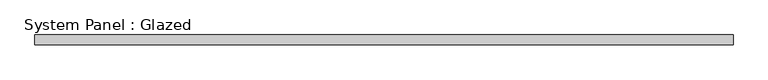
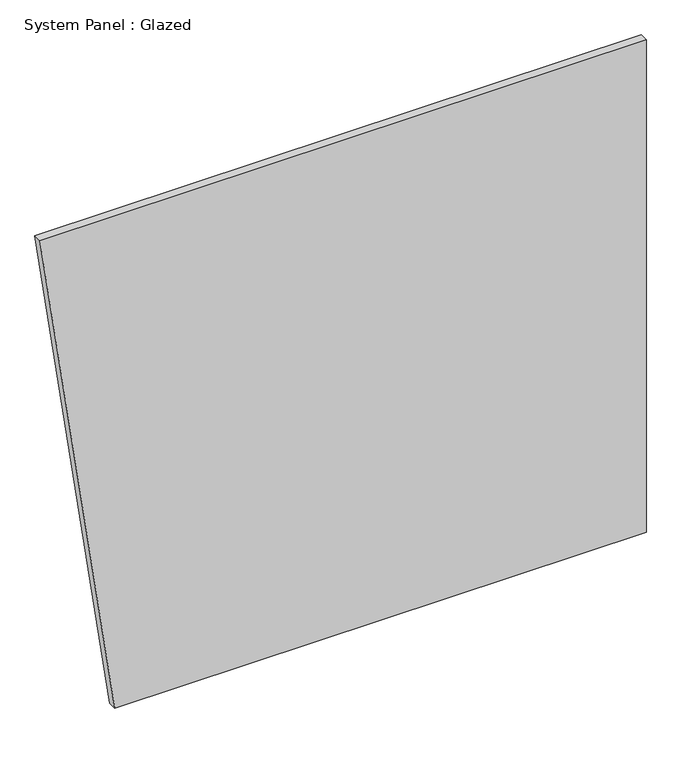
"""IFC4 building model written with IfcOpenShell, lengths in millimetres: plate geometry, System Panel : Glazed."""

import ifcopenshell
import ifcopenshell.guid

model = None  # the IFC model being written
_history = None  # IfcOwnerHistory: only IFC2X3 demands one
_inside = {}  # id of a spatial element -> (the spatial element, [elements in it])
_under = {}  # id of a project, library or spatial element -> (it, [spatial elements below it])
_declared = {}  # id of a project -> (the project, [libraries it declares])
_typed = {}  # id of a type object -> (the type object, [elements of that type])
_made_of = {}  # id of a material, layer set ... -> (it, [elements and type objects made of it])


def new_model(schema):
    """Start an empty IFC model of exactly this schema.

    Asked for "IFC4X3", IfcOpenShell would pick the latest addendum, in which some entities
    have other attributes; the version numbers below select the first issue.
    IFC2X3 requires an IfcOwnerHistory on every rooted entity: one is made here for all.
    """
    global model, _history
    if schema == "IFC4X3":
        model = ifcopenshell.file(schema_version=(4, 3, 0, 0))
    else:
        model = ifcopenshell.file(schema=schema)
    _inside.clear()
    _under.clear()
    _declared.clear()
    _typed.clear()
    _made_of.clear()
    _history = None
    if model.schema == "IFC2X3":
        org = make("IfcOrganization", Name="unknown")
        user = make(
            "IfcPersonAndOrganization",
            ThePerson=make("IfcPerson", FamilyName="unknown"),
            TheOrganization=org,
        )
        app = make(
            "IfcApplication",
            ApplicationDeveloper=org,
            Version="unknown",
            ApplicationFullName="unknown",
            ApplicationIdentifier="unknown",
        )
        _history = make(
            "IfcOwnerHistory",
            OwningUser=user,
            OwningApplication=app,
            ChangeAction="ADDED",
            CreationDate=0,
        )
    return model


def make(cls, **values):
    """One entity of the class cls with the attributes given. An attribute that is None is left unset."""
    return model.create_entity(
        cls, **{name: value for name, value in values.items() if value is not None}
    )


def rooted(cls, **values):
    """An entity with a GlobalId (a new one), such as an element, a storey or a relation."""
    return make(cls, GlobalId=ifcopenshell.guid.new(), OwnerHistory=_history, **values)


def si_unit(unit_type, name, prefix=None):
    """IfcSIUnit, for example si_unit("LENGTHUNIT", "METRE", prefix="MILLI")."""
    return make("IfcSIUnit", UnitType=unit_type, Prefix=prefix, Name=name)


def assignment(units):
    """IfcUnitAssignment: the units of a project."""
    return None if units is None else make("IfcUnitAssignment", Units=units)


def point(xyz):
    """IfcCartesianPoint."""
    return None if xyz is None else make("IfcCartesianPoint", Coordinates=xyz)


def direction(xyz):
    """IfcDirection."""
    return None if xyz is None else make("IfcDirection", DirectionRatios=xyz)


def frame(location, z_axis=None, x_axis=None):
    """IfcAxis2Placement3D, a coordinate frame: its origin and axes. An axis left out is left unset."""
    return make(
        "IfcAxis2Placement3D",
        Location=point(location),
        Axis=direction(z_axis),
        RefDirection=direction(x_axis),
    )


def origin():
    """The frame at (0, 0, 0) with its axes left unset."""
    return frame((0.0, 0.0, 0.0))


def place(relative_to, where):
    """IfcLocalPlacement: puts the frame where relative to a parent placement (None: the world)."""
    return make(
        "IfcLocalPlacement", PlacementRelTo=relative_to, RelativePlacement=where
    )


def context(
    kind, dimensions, precision=None, world=None, true_north=None, identifier=None
):
    """IfcGeometricRepresentationContext, for example the 3D "Model" context."""
    return make(
        "IfcGeometricRepresentationContext",
        ContextIdentifier=identifier,
        ContextType=kind,
        CoordinateSpaceDimension=dimensions,
        Precision=precision,
        WorldCoordinateSystem=world,
        TrueNorth=true_north,
    )


def project(units=None, contexts=None):
    """IfcProject with its units and contexts."""
    return rooted(
        "IfcProject",
        Name="project",
        RepresentationContexts=contexts,
        UnitsInContext=assignment(units),
    )


def spatial(cls, under=None, at=None, **own):
    """A site, building, storey or space (cls), placed at a placement, below another one or the project."""
    s = rooted(cls, ObjectPlacement=at, **own)
    if under is not None:
        _under.setdefault(under.id(), (under, []))[1].append(s)
    return s


def polyline(points):
    """IfcPolyline through the points."""
    return make("IfcPolyline", Points=[point(p) for p in points])


def outline(outer, holes=None, kind="AREA"):
    """IfcArbitraryClosedProfileDef: a profile drawn as a closed curve; with holes, ...WithVoids."""
    if holes is None:
        return make("IfcArbitraryClosedProfileDef", ProfileType=kind, OuterCurve=outer)
    return make(
        "IfcArbitraryProfileDefWithVoids",
        ProfileType=kind,
        OuterCurve=outer,
        InnerCurves=holes,
    )


def extrude(swept, where, along, depth):
    """IfcExtrudedAreaSolid: the profile swept, set in the frame where, extruded along a direction by depth."""
    return make(
        "IfcExtrudedAreaSolid",
        SweptArea=swept,
        Position=where,
        ExtrudedDirection=direction(along),
        Depth=depth,
    )


def shape(context_of_items, identifier, shape_type, items):
    """IfcShapeRepresentation: the items that make up one representation, for example the "Body"."""
    return make(
        "IfcShapeRepresentation",
        ContextOfItems=context_of_items,
        RepresentationIdentifier=identifier,
        RepresentationType=shape_type,
        Items=items,
    )


def source(mapping_origin, context_of_items, identifier, shape_type, items):
    """IfcRepresentationMap: a shape defined once, which mapped items show again and again."""
    return make(
        "IfcRepresentationMap",
        MappingOrigin=mapping_origin,
        MappedRepresentation=shape(context_of_items, identifier, shape_type, items),
    )


def transform(
    local_origin,
    x_axis=None,
    y_axis=None,
    z_axis=None,
    scale=None,
    scale2=None,
    scale3=None,
    uniform=True,
):
    """IfcCartesianTransformationOperator3D, or its non-uniform kind. x_axis, y_axis, z_axis: its Axis1, 2, 3."""
    if uniform:
        return make(
            "IfcCartesianTransformationOperator3D",
            Axis1=direction(x_axis),
            Axis2=direction(y_axis),
            LocalOrigin=point(local_origin),
            Scale=scale,
            Axis3=direction(z_axis),
        )
    return make(
        "IfcCartesianTransformationOperator3DnonUniform",
        Axis1=direction(x_axis),
        Axis2=direction(y_axis),
        LocalOrigin=point(local_origin),
        Scale=scale,
        Axis3=direction(z_axis),
        Scale2=scale2,
        Scale3=scale3,
    )


def mapped(mapping_source, mapping_target):
    """IfcMappedItem: shows the shape of a source again, moved by a transform."""
    return make(
        "IfcMappedItem", MappingSource=mapping_source, MappingTarget=mapping_target
    )


def made_of(thing, what):
    """Note that an element or type object is made of a material, layer set ...; save() writes the relation."""
    if what is not None:
        _made_of.setdefault(what.id(), (what, []))[1].append(thing)
    return thing


def element(
    cls,
    number,
    at=None,
    inside=None,
    cuts=None,
    type_object=None,
    material=None,
    context=None,
    identifier="Body",
    shape_type=None,
    held_by="IfcProductDefinitionShape",
    body=None,
    shapes=None,
    **own,
):
    """One element of the class cls, such as IfcWall. Its Tag is "e" and its number.

    at: its placement. inside: the storey or other place that contains it. cuts: it is an
    opening in that element (IfcRelVoidsElement). A single representation is given by context,
    identifier, shape_type and body (its items); several are given by shapes. held_by: the class
    of the entity that holds the representations. save() writes the other relations.
    """
    e = rooted(cls, Tag="e%d" % number, ObjectPlacement=at, **own)
    if body is not None:
        shapes = [shape(context, identifier, shape_type, body)]
    if shapes is not None:
        e.Representation = make(held_by, Representations=shapes)
    if inside is not None:
        _inside.setdefault(inside.id(), (inside, []))[1].append(e)
    if cuts is not None:
        rooted(
            "IfcRelVoidsElement", RelatingBuildingElement=cuts, RelatedOpeningElement=e
        )
    if type_object is not None:
        _typed.setdefault(type_object.id(), (type_object, []))[1].append(e)
    return made_of(e, material)


def aggregate(whole, parts):
    """IfcRelAggregates: a whole, such as a stair, and the parts it consists of."""
    return rooted("IfcRelAggregates", RelatingObject=whole, RelatedObjects=parts)


def save(model, path):
    """Write the relations noted so far, then the file.

    IfcRelAggregates (storeys below a building ...), IfcRelContainedInSpatialStructure (elements
    in a storey), IfcRelDefinesByType, IfcRelAssociatesMaterial and IfcRelDeclares: one each for
    every whole, place, type object, material and project.
    """
    for whole, parts in _under.values():
        aggregate(whole, parts)
    for where, things in _inside.values():
        rooted(
            "IfcRelContainedInSpatialStructure",
            RelatedElements=things,
            RelatingStructure=where,
        )
    for kind, things in _typed.values():
        rooted("IfcRelDefinesByType", RelatedObjects=things, RelatingType=kind)
    for what, things in _made_of.values():
        rooted("IfcRelAssociatesMaterial", RelatedObjects=things, RelatingMaterial=what)
    for by, libraries in _declared.values():
        rooted("IfcRelDeclares", RelatingContext=by, RelatedDefinitions=libraries)
    model.write(path)


def system_panel_glazed_463c4953(model_context):
    return source(origin(), model_context, "Body", "SweptSolid", [
        extrude(outline(polyline([(0.0, -668.8057555), (0.0, 888.0863311), (1524.0, 888.0863311), (1524.0, -888.0863311), (0.0, -668.8057555)])), frame((0.0, 19.05, 0.0), z_axis=(0.0, 1.0, 0.0), x_axis=(0.0, 0.0, 1.0)), (0.0, 0.0, 1.0), 25.4),
    ])


if __name__ == "__main__":
    model = new_model("IFC4")
    model_context = context("Model", 3, world=origin())
    ifc_project = project(units=[si_unit("LENGTHUNIT", "METRE", prefix="MILLI")], contexts=[model_context])
    site = spatial("IfcSite", under=ifc_project)
    building = spatial("IfcBuilding", under=site)
    placement = place(None, origin())
    system_panel_glazed_shape = system_panel_glazed_463c4953(model_context)
    element("IfcPlate", 1, ObjectType="System Panel : Glazed", at=placement, inside=building, context=model_context, shape_type="MappedRepresentation", body=[
        mapped(system_panel_glazed_shape, transform((0.0, 0.0, 0.0), x_axis=(1.0, 0.0, 0.0), y_axis=(0.0, 1.0, 0.0), z_axis=(0.0, 0.0, 1.0))),
    ])
    save(model, "model.ifc")
